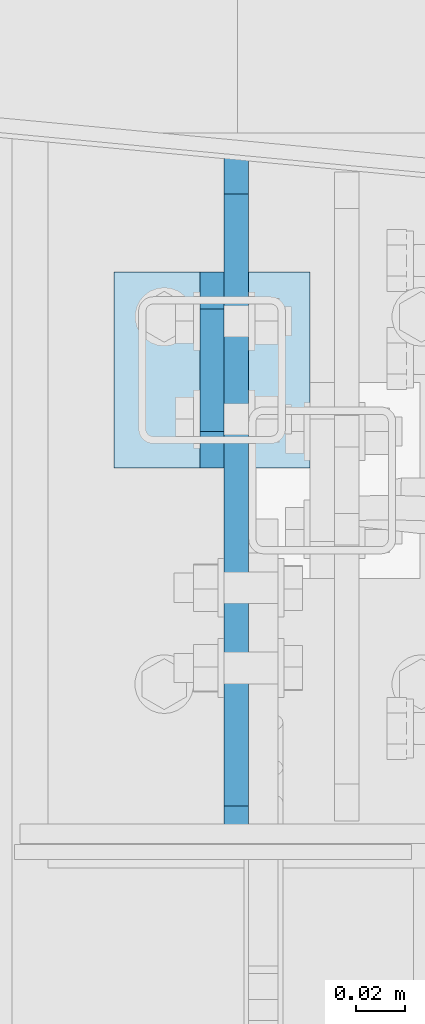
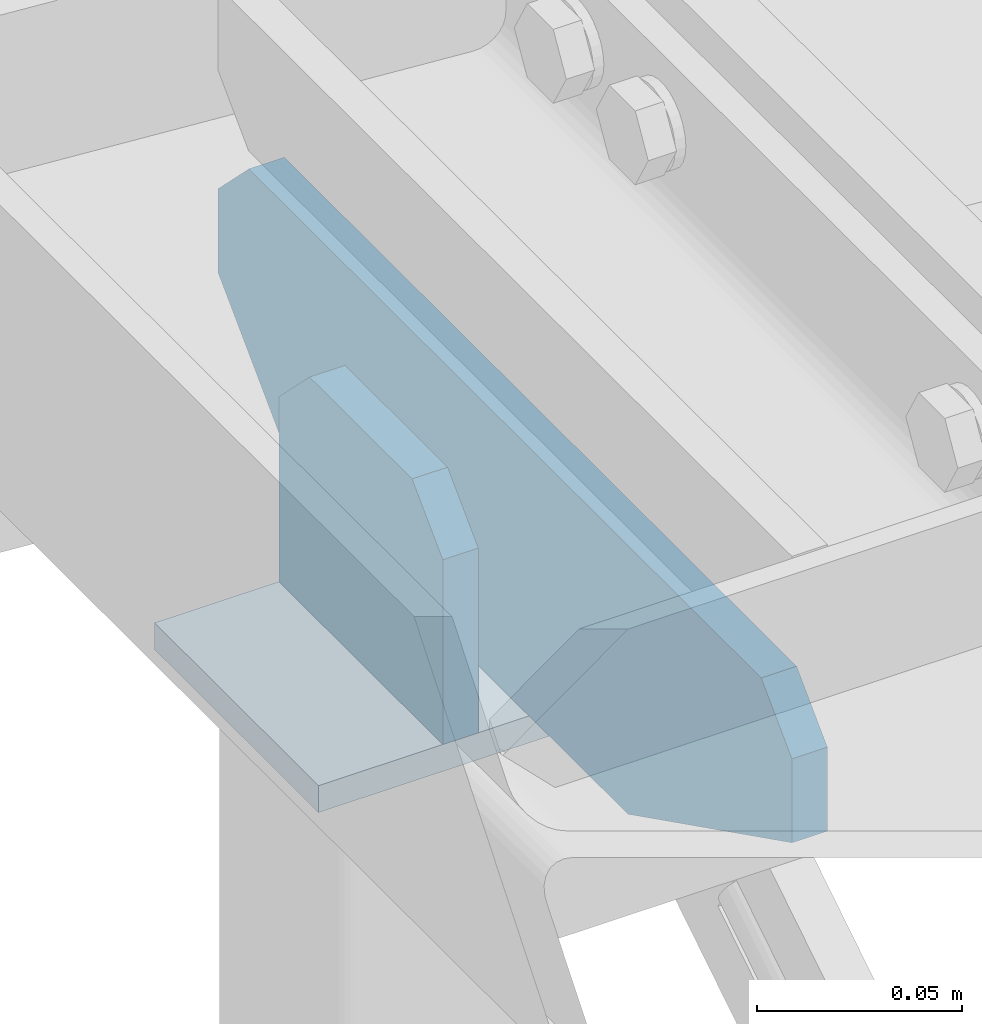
# One storey, part 141 of 271: 3 plates, 2 elements without a shape of their own.
"""IFC2X3 building model written with IfcOpenShell, lengths in millimetres."""

from ifc_helpers import new_model, si_unit, frame, origin_with_axes, place, context, subcontext, project, spatial, polyline, outline, extrude, material, type_object, element, aggregate, save


model = new_model("IFC2X3")

# Units and contexts
model_context = context("Model", 3, precision=1e-05, world=origin_with_axes())
body_context = subcontext(model_context, "Body", "Model", "MODEL_VIEW")
ifc_project = project(units=[si_unit("LENGTHUNIT", "METRE", prefix="MILLI"), si_unit("AREAUNIT", "SQUARE_METRE"), si_unit("VOLUMEUNIT", "CUBIC_METRE"), si_unit("MASSUNIT", "GRAM", prefix="KILO"), si_unit("TIMEUNIT", "SECOND"), si_unit("PLANEANGLEUNIT", "RADIAN"), si_unit("SOLIDANGLEUNIT", "STERADIAN"), si_unit("THERMODYNAMICTEMPERATUREUNIT", "DEGREE_CELSIUS"), si_unit("LUMINOUSINTENSITYUNIT", "LUMEN")], contexts=[model_context])

# Site, building, storey
site_placement = place(None, origin_with_axes())
site = spatial("IfcSite", under=ifc_project, at=site_placement, Name="Undefined", CompositionType="ELEMENT")
building_placement = place(site_placement, origin_with_axes())
building = spatial("IfcBuilding", under=site, at=building_placement, Name="Undefined", CompositionType="ELEMENT")
storey_placement = place(building_placement, origin_with_axes())
storey = spatial("IfcBuildingStorey", under=building, at=storey_placement, Name="Undefined", CompositionType="ELEMENT", Elevation=0.0)

# Assembly, plates
assembly_1_placement = place(storey_placement, origin_with_axes())
assembly_1 = element("IfcElementAssembly", 1, at=assembly_1_placement, inside=storey, AssemblyPlace="NOTDEFINED", PredefinedType="RIGID_FRAME")
ifc_material = material(Name="STEEL/S355JR")
plate_type_1 = type_object("IfcPlateType", Name="BL10*70", PredefinedType="NOTDEFINED")
plate_1_placement = place(assembly_1_placement, frame((77.9999996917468, 4297.19355050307, 19956.699999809), z_axis=(-1.0, 0.0, 1.38777878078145e-17), x_axis=(0.0, 0.707106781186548, 0.707106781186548)))
plate_1 = element("IfcPlate", 2, at=plate_1_placement, type_object=plate_type_1, material=ifc_material, Name="BLACHA", ObjectType="BL10*70", context=body_context, shape_type="SweptSolid", body=[
    extrude(outline(polyline([(0.0, 0.0), (21.2132034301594, 1.09139364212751e-11), (56.5685424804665, 35.3553390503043), (56.568542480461, 56.5685424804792), (17.6776695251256, 95.4594192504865), (-38.890872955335, 38.8908729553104), (0.0, 0.0)])), frame((0.0, 0.0, -5.0), z_axis=(0.0, 0.0, 1.0), x_axis=(1.0, 0.0, 0.0)), (0.0, 0.0, 1.0), 10.0),
])
plate_type_2 = type_object("IfcPlateType", Name="BL8*80", PredefinedType="NOTDEFINED")
plate_2_placement = place(assembly_1_placement, frame((117.999999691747, 4297.19355050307, 19897.699999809), z_axis=(0.0, 0.0, 1.0), x_axis=(0.0, 1.0, 0.0)))
plate_2 = element("IfcPlate", 3, at=plate_2_placement, type_object=plate_type_2, material=ifc_material, Name="BLACHA", ObjectType="BL8*80", context=body_context, shape_type="SweptSolid", body=[
    extrude(outline(polyline([(0.0, 0.0), (80.0, 0.0), (80.0, 80.0), (0.0, 80.0), (0.0, 0.0)])), frame((0.0, 0.0, -4.0), z_axis=(0.0, 0.0, 1.0), x_axis=(1.0, 0.0, 0.0)), (0.0, 0.0, 1.0), 8.0),
])
aggregate(assembly_1, [plate_2, plate_1])

# Assembly, plate
assembly_2_placement = place(storey_placement, origin_with_axes())
assembly_2 = element("IfcElementAssembly", 4, at=assembly_2_placement, inside=storey, AssemblyPlace="NOTDEFINED", PredefinedType="RIGID_FRAME")
plate_type_3 = type_object("IfcPlateType", Name="BL10*80", PredefinedType="NOTDEFINED")
plate_3_placement = place(assembly_2_placement, frame((87.9999996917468, 4144.19355050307, 20001.699999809), z_axis=(-1.0, 0.0, 1.38777878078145e-17), x_axis=(0.0, 1.0, 0.0)))
plate_3 = element("IfcPlate", 5, at=plate_3_placement, type_object=plate_type_3, material=ifc_material, Name="BLACHA", ObjectType="BL10*80", context=body_context, shape_type="SweptSolid", body=[
    extrude(outline(polyline([(0.0, 15.0), (15.0, -1.59872115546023e-14), (265.0, 0.0), (280.0, 15.0), (280.0, 40.0000000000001), (240.0, 80.0), (80.0, 80.0), (0.0, 40.0), (0.0, 15.0)])), frame((0.0, 0.0, -5.0), z_axis=(0.0, 0.0, 1.0), x_axis=(1.0, 0.0, 0.0)), (0.0, 0.0, 1.0), 10.0),
])
aggregate(assembly_2, [plate_3])

save(model, "model.ifc")
